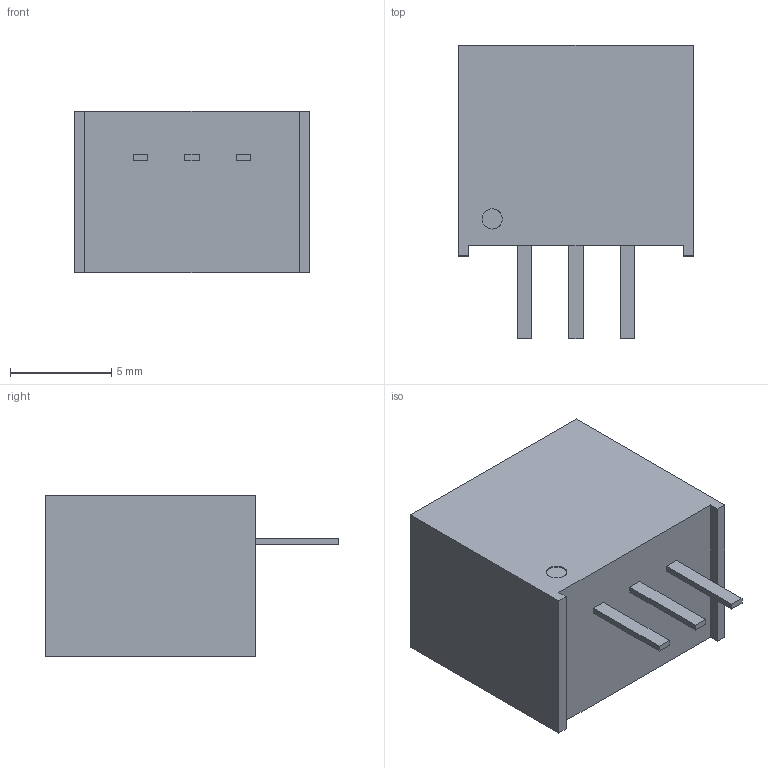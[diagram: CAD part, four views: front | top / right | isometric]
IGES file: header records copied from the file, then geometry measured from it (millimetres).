
Start section: SolidWorks IGES file using analytic representation for surfaces
Global section: file name: C:\Users\cdavies\Desktop\FILE AWAY\PB - VR10 VR20 Export\K78xxM-1000R3.IGS; native system: SolidWorks 2020; preprocessor: SolidWorks 2020; author: cdavies; date: 210401.125047; units: millimetre
Bounding box: 11.6 x 14.5 x 8 mm (x, y, z)
Surface area: 618.4 mm2 (no closed solid volume)
Topology: 0 solids, 0 shells, 28 faces, 160 edges, 160 vertices
Faces by surface type: bspline 26, revolution 2
